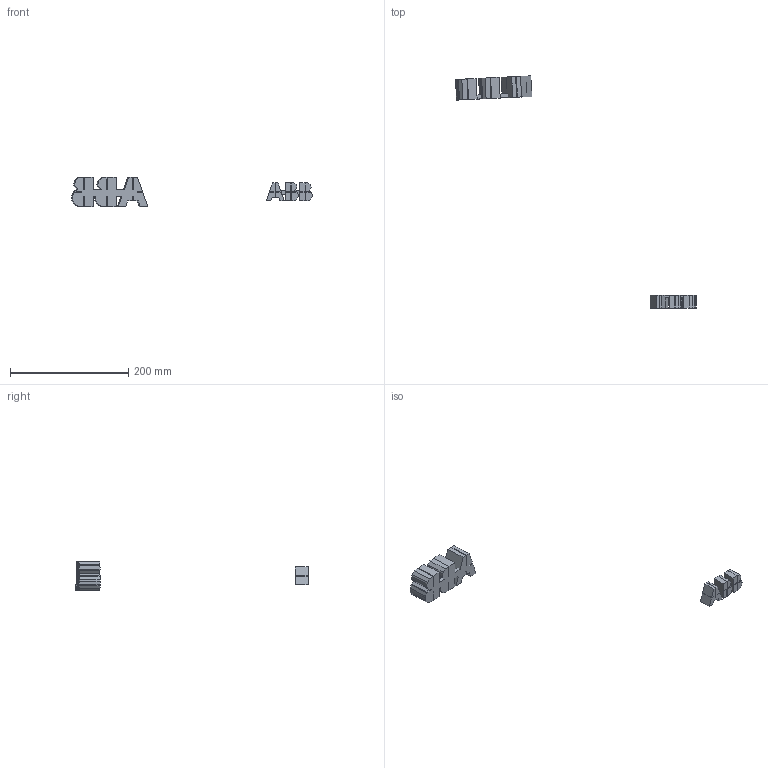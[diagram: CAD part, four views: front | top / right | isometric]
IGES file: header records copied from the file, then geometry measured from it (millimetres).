
Start section: SolidWorks IGES file using analytic representation for surfaces
Global section: file name: B:\Robotics\SEROP_PROJ\Product Development\DevelopmentProjects\RobCal\Design\CAD simuleringsmodeller\Till_RobotStudio\IRB6700-HL\IRB6700_235-265_IRC5_rev02\IRB6700_235-265_IRC5_rev02_IGES_j\IRB6700_235-265_IRC5_rev00_LOGO3_CAD.IGS; native system: SolidWorks 2014; preprocessor: SolidWorks 2014; author: SEEMTHE; date: 160127.112312; units: millimetre
Bounding box: 407.86 x 393.15 x 50.27 mm (x, y, z)
Surface area: 56237.5 mm2 (no closed solid volume)
Topology: 0 solids, 0 shells, 208 faces, 1196 edges, 1196 vertices
Faces by surface type: bspline 208
